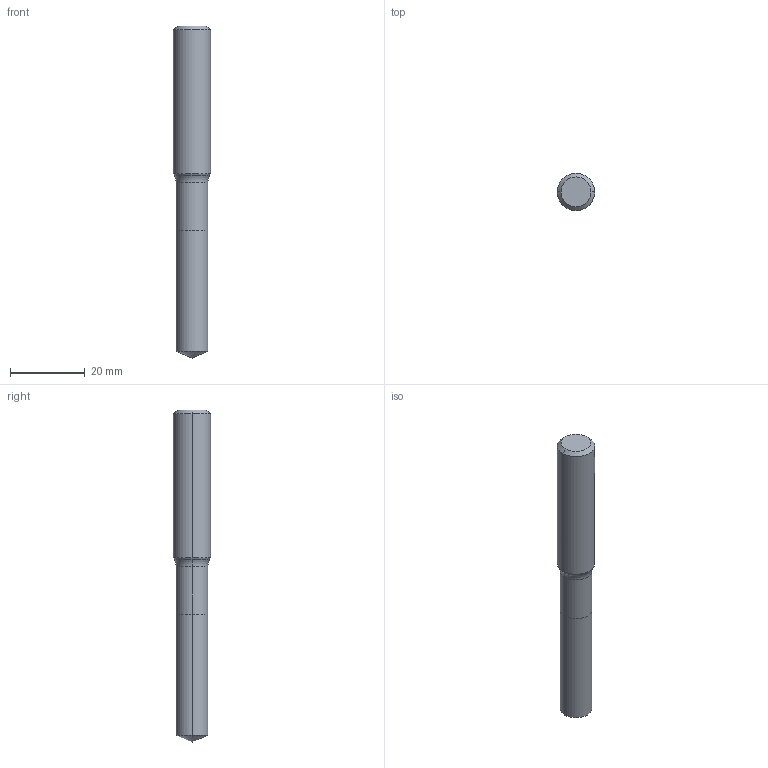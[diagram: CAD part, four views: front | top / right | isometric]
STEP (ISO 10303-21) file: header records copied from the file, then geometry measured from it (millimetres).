
FILE_DESCRIPTION (( 'STEP AP214' ), '1' );
FILE_NAME ('810.085.00_3D-model.step', '2022-02-23T22:24:41', ( '' ), ( '' ), 'SwSTEP 2.0', 'SolidWorks 2020', '' );
FILE_SCHEMA (( 'AUTOMOTIVE_DESIGN' ));
Length unit declared in the file: millimetre
Products named in the file (3): NOCUT-3D^Baugr117; 810.085.00_3D-model; CUT-3D^Baugr117
Assembly tree (2 placements, depth 2):
  810.085.00_3D-model
    CUT-3D^Baugr117
    NOCUT-3D^Baugr117
Bounding box: 10 x 10 x 89 mm (x, y, z)
Volume: 5849.2 mm3; surface area: 2758.3 mm2
Topology: 2 solids, 2 shells, 17 faces, 32 edges, 17 vertices
Faces by surface type: cone 6, cylinder 6, plane 3, torus 2
Entity records: 532 total; most frequent: DIRECTION 98, CARTESIAN_POINT 72, ORIENTED_EDGE 60, AXIS2_PLACEMENT_3D 43, EDGE_CURVE 30, CIRCLE 18, EDGE_LOOP 17, ADVANCED_FACE 17
